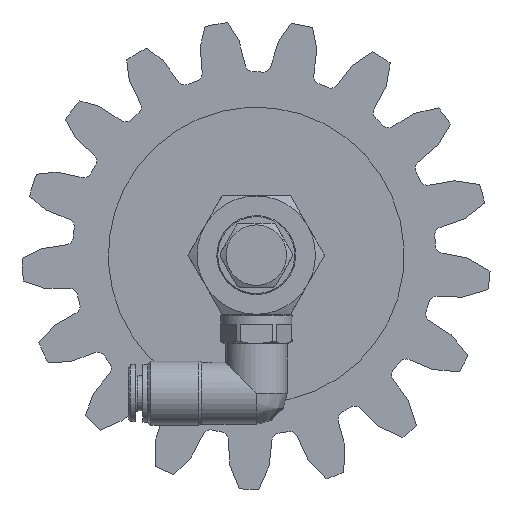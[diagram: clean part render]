
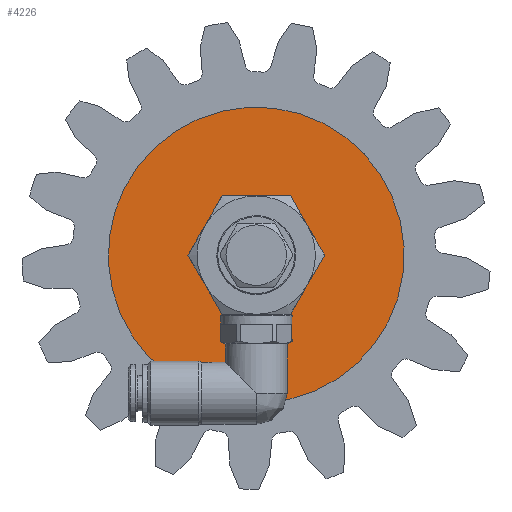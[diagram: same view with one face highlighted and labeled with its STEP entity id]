
A CAD part, front view. The second image highlights one B-rep face of the part: STEP entity #4226.
In plain terms, the highlighted planar face has unit normal (0, -1, 0) as drawn and (0, 0, 1) by its records, which use the part's own axes.
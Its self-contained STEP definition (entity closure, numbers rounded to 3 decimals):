
#1805 = DIRECTION ( 'NONE',  ( 1., 0., 0. ) ) ;
#2141 = DIRECTION ( 'NONE',  ( 0., 0., -1. ) ) ;
#4226 = ADVANCED_FACE ( 'NONE', ( #20862, #25541 ), #40537, .F. ) ;
#8569 = VERTEX_POINT ( 'NONE', #9046 ) ;
#9046 = CARTESIAN_POINT ( 'NONE',  ( 30., 0., 0. ) ) ;
#12540 = AXIS2_PLACEMENT_3D ( 'NONE', #34928, #38835, #27535 ) ;
#13364 = EDGE_CURVE ( 'NONE', #29509, #29509, #25124, .T. ) ;
#16840 = DIRECTION ( 'NONE',  ( 0., 0., 1. ) ) ;
#16899 = ORIENTED_EDGE ( 'NONE', *, *, #13364, .F. ) ;
#19481 = EDGE_LOOP ( 'NONE', ( #16899 ) ) ;
#20790 = AXIS2_PLACEMENT_3D ( 'NONE', #38742, #16840, #1805 ) ;
#20862 = FACE_BOUND ( 'NONE', #19481, .T. ) ;
#21857 = EDGE_LOOP ( 'NONE', ( #46555 ) ) ;
#24551 = DIRECTION ( 'NONE',  ( -1., 0., 0. ) ) ;
#25124 = CIRCLE ( 'NONE', #12540, 5.286 ) ;
#25541 = FACE_OUTER_BOUND ( 'NONE', #21857, .T. ) ;
#27535 = DIRECTION ( 'NONE',  ( 1., 0., 0. ) ) ;
#28258 = CARTESIAN_POINT ( 'NONE',  ( 0., 30., 0. ) ) ;
#29509 = VERTEX_POINT ( 'NONE', #37605 ) ;
#31799 = CIRCLE ( 'NONE', #20790, 30. ) ;
#34095 = AXIS2_PLACEMENT_3D ( 'NONE', #28258, #2141, #24551 ) ;
#34928 = CARTESIAN_POINT ( 'NONE',  ( 0., 0., 0. ) ) ;
#37437 = EDGE_CURVE ( 'NONE', #8569, #8569, #31799, .T. ) ;
#37605 = CARTESIAN_POINT ( 'NONE',  ( 5.286, 0., 0. ) ) ;
#38742 = CARTESIAN_POINT ( 'NONE',  ( 0., 0., 0. ) ) ;
#38835 = DIRECTION ( 'NONE',  ( 0., 0., 1. ) ) ;
#40537 = PLANE ( 'NONE',  #34095 ) ;
#46555 = ORIENTED_EDGE ( 'NONE', *, *, #37437, .T. ) ;
